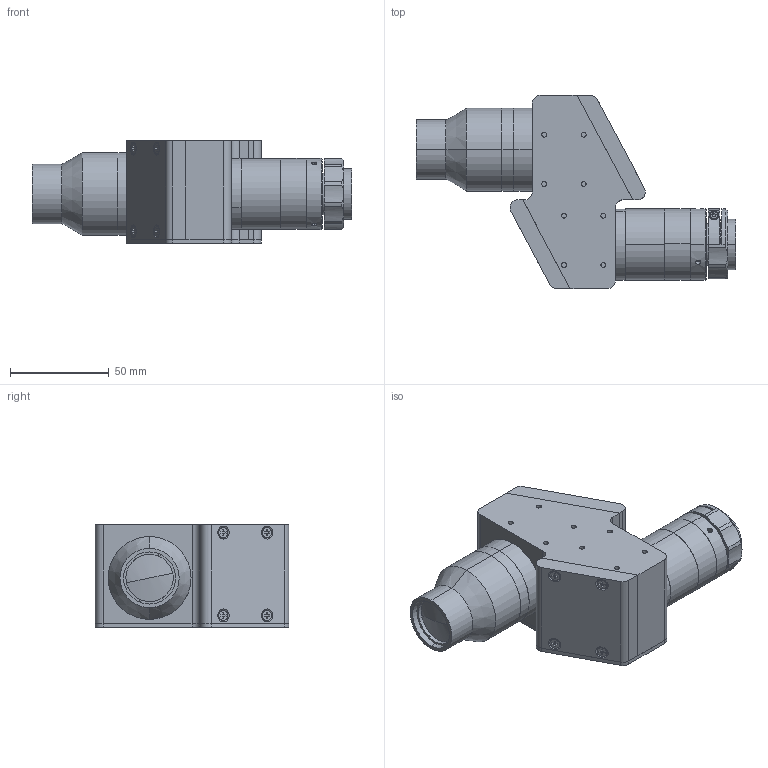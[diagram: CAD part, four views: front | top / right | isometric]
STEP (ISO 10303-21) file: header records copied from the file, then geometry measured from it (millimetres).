
FILE_DESCRIPTION (( 'STEP AP203' ), '1' );
FILE_NAME ('XF-MH1X184.STEP', '2020-08-24T07:14:21', ( 'canrill-02' ), ( '' ), 'SwSTEP 2.0', 'SolidWorks 2014', '' );
FILE_SCHEMA (( 'CONFIG_CONTROL_DESIGN' ));
Length unit declared in the file: millimetre
Products named in the file (1): XF-MH1X184
Bounding box: 161.76 x 98 x 52 mm (x, y, z)
Surface area: 44601.4 mm2 (no closed solid volume)
Topology: 0 solids, 31 shells, 434 faces, 1340 edges, 913 vertices
Faces by surface type: plane 229, cylinder 158, cone 43, sphere 2, torus 2
Entity records: 15236 total; most frequent: CARTESIAN_POINT 3007, DIRECTION 2654, ORIENTED_EDGE 2253, EDGE_CURVE 1338, VERTEX_POINT 913, AXIS2_PLACEMENT_3D 904, VECTOR 846, LINE 846
